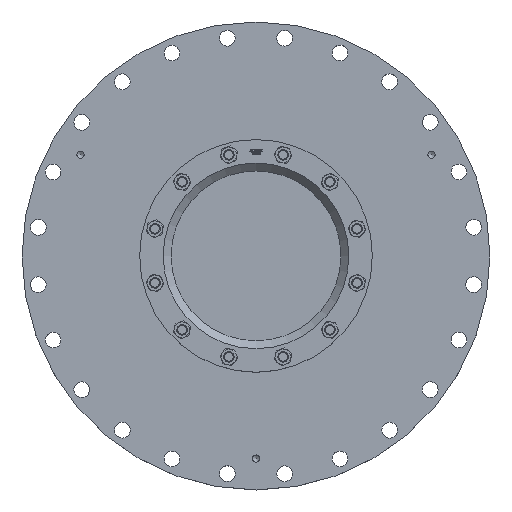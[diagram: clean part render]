
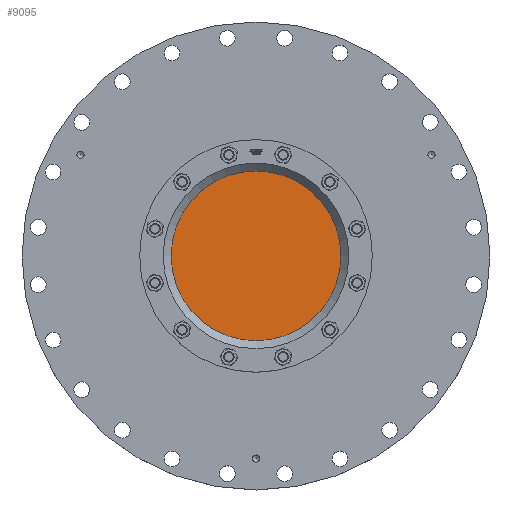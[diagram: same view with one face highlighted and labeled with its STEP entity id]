
A CAD part, top view. The second image highlights one B-rep face of the part: STEP entity #9095.
In plain terms, the highlighted planar face has unit normal (0, 0, 1).
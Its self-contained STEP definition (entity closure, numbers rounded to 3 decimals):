
#2607=FACE_OUTER_BOUND('',#3160,.T.);
#3160=EDGE_LOOP('',(#6298));
#3901=CIRCLE('',#9651,162.5);
#4167=VERTEX_POINT('',#12300);
#5015=EDGE_CURVE('',#4167,#4167,#3901,.T.);
#6298=ORIENTED_EDGE('',*,*,#5015,.F.);
#8864=PLANE('',#9650);
#9095=ADVANCED_FACE('',(#2607),#8864,.F.);
#9650=AXIS2_PLACEMENT_3D('',#12299,#10363,#10364);
#9651=AXIS2_PLACEMENT_3D('',#12301,#10365,#10366);
#10363=DIRECTION('center_axis',(0.,0.,-1.));
#10364=DIRECTION('ref_axis',(-1.,0.,0.));
#10365=DIRECTION('center_axis',(0.,0.,-1.));
#10366=DIRECTION('ref_axis',(-1.,0.,0.));
#12299=CARTESIAN_POINT('Origin',(0.,0.,128.));
#12300=CARTESIAN_POINT('',(162.5,0.,128.));
#12301=CARTESIAN_POINT('Origin',(0.,0.,128.));
